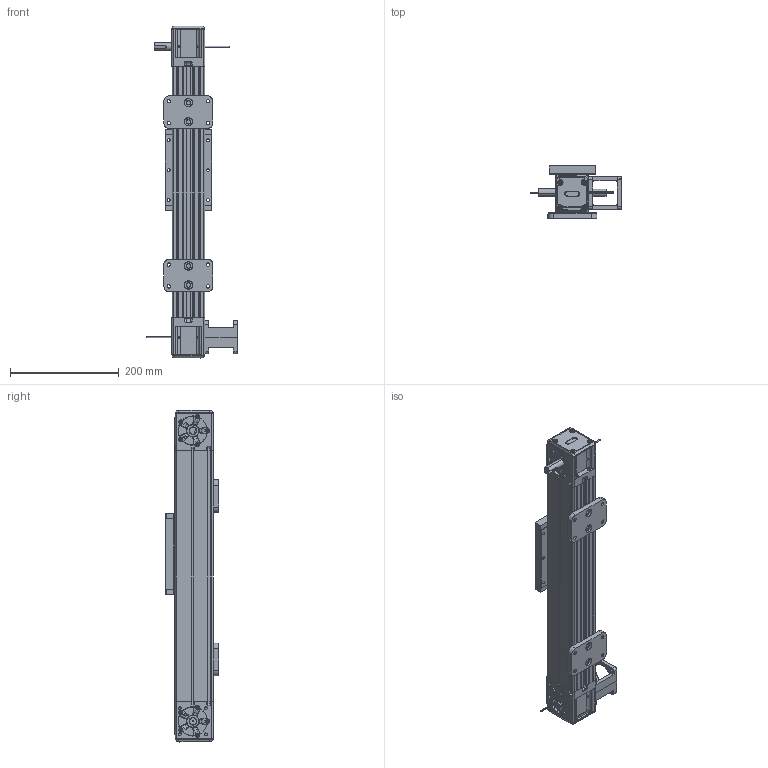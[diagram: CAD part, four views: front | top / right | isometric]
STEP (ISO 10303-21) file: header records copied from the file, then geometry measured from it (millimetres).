
FILE_DESCRIPTION (( 'STEP AP214' ), '1' );
FILE_NAME ('60全封闭同步带模组.STEP', '2023-02-15T08:25:25', ( '' ), ( '' ), 'SwSTEP 2.0', 'SolidWorks 2020', '' );
FILE_SCHEMA (( 'AUTOMOTIVE_DESIGN' ));
Length unit declared in the file: millimetre
Products named in the file (15): 60全封闭同步带模组; 粣創釱1; 14MM 等傷萇儂粣; 5M25喘; 萇儂盓殤; 情え裔; 嘐隅え; 60肮祭湍猾敕賑輸; 60猾敕宒; 華褐; 粣創釱2; 粣創釱-情え; hexagon socket head cap screws gb_GB_FASTENER_SCREWS_HSHCS M4X8-N; 60轴承座子装配-带出轴
Assembly tree (50 placements, depth 3):
  60全封闭同步带模组
    60猾敕宒
    60轴承座子装配-带出轴
      粣創釱2
      粣創釱-情え  x2
      5M25喘
      14MM 等傷萇儂粣
      hexagon socket head cap screws gb_GB_FASTENER_SCREWS_HSHCS M4X8-N  x14
      粣創釱1
    60肮祭湍猾敕賑輸
    華褐  x2
    60轴承座子装配-带出轴
      粣創釱2
      粣創釱-情え  x2
      5M25喘
      14MM 等傷萇儂粣
      hexagon socket head cap screws gb_GB_FASTENER_SCREWS_HSHCS M4X8-N  x14
      粣創釱1
    萇儂盓殤
    情え裔
    嘐隅え  x2
Bounding box: 166.7 x 97.5 x 610 mm (x, y, z)
Volume: 989073.7 mm3; surface area: 684379.3 mm2
Topology: 44 solids, 53 shells, 2891 faces, 7329 edges, 4526 vertices
Faces by surface type: plane 1093, cylinder 712, bspline 452, cone 422, torus 212
Entity records: 48936 total; most frequent: CARTESIAN_POINT 13663, ORIENTED_EDGE 5943, DIRECTION 5359, EDGE_CURVE 2994, AXIS2_PLACEMENT_3D 1994, VERTEX_POINT 1924, LINE 1371, VECTOR 1371
